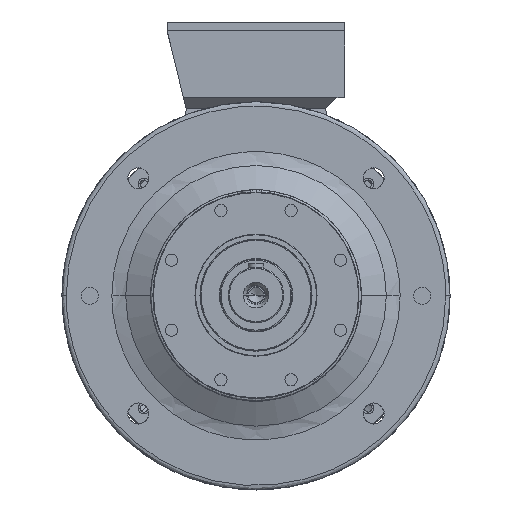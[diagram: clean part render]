
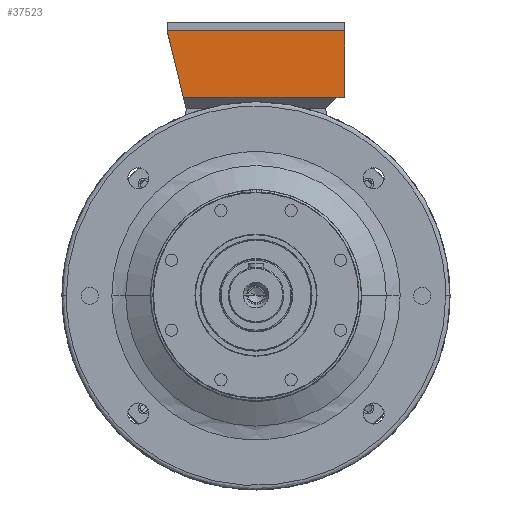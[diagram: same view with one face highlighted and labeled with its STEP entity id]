
A CAD part, top view. The second image highlights one B-rep face of the part: STEP entity #37523.
In plain terms, the highlighted planar face has unit normal (0, 0, 1).
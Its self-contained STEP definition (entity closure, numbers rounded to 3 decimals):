
#9976 = AXIS2_PLACEMENT_3D ( 'NONE', #76532, #76527, #76498 ) ;
#23425 = EDGE_CURVE ( 'NONE', #90498, #35772, #57526, .T. ) ;
#23520 = EDGE_CURVE ( 'NONE', #35772, #79768, #57705, .T. ) ;
#23521 = EDGE_CURVE ( 'NONE', #51856, #79768, #57733, .T. ) ;
#23531 = EDGE_CURVE ( 'NONE', #35771, #90498, #57670, .T. ) ;
#23551 = EDGE_CURVE ( 'NONE', #35771, #51856, #57736, .T. ) ;
#27166 = CARTESIAN_POINT ( 'NONE',  ( -80., 70., 150. ) ) ;
#27366 = CARTESIAN_POINT ( 'NONE',  ( -65.429, 10., 150. ) ) ;
#35771 = VERTEX_POINT ( 'NONE', #76350 ) ;
#35772 = VERTEX_POINT ( 'NONE', #76345 ) ;
#37523 = ADVANCED_FACE ( 'NONE', ( #67301 ), #76511, .F. ) ;
#38647 = CARTESIAN_POINT ( 'NONE',  ( 80., 10., 150. ) ) ;
#51856 = VERTEX_POINT ( 'NONE', #27166 ) ;
#57526 = LINE ( 'NONE', #80535, #57605 ) ;
#57605 = VECTOR ( 'NONE', #80557, 1000. ) ;
#57660 = VECTOR ( 'NONE', #80980, 1000. ) ;
#57664 = VECTOR ( 'NONE', #81133, 1000. ) ;
#57670 = LINE ( 'NONE', #81123, #57720 ) ;
#57705 = LINE ( 'NONE', #80994, #57660 ) ;
#57720 = VECTOR ( 'NONE', #81104, 1000. ) ;
#57733 = LINE ( 'NONE', #80997, #57763 ) ;
#57736 = LINE ( 'NONE', #81177, #57664 ) ;
#57763 = VECTOR ( 'NONE', #80990, 1000. ) ;
#67301 = FACE_OUTER_BOUND ( 'NONE', #97146, .T. ) ;
#76345 = CARTESIAN_POINT ( 'NONE',  ( 73., 10., 150. ) ) ;
#76350 = CARTESIAN_POINT ( 'NONE',  ( 80., 70., 150. ) ) ;
#76498 = DIRECTION ( 'NONE',  ( -1., 0., 0. ) ) ;
#76511 = PLANE ( 'NONE',  #9976 ) ;
#76527 = DIRECTION ( 'NONE',  ( 0., 0., -1. ) ) ;
#76532 = CARTESIAN_POINT ( 'NONE',  ( -80., 70., 150. ) ) ;
#79768 = VERTEX_POINT ( 'NONE', #27366 ) ;
#80535 = CARTESIAN_POINT ( 'NONE',  ( -80., 10., 150. ) ) ;
#80557 = DIRECTION ( 'NONE',  ( -1., 0., 0. ) ) ;
#80980 = DIRECTION ( 'NONE',  ( -1., 0., 0. ) ) ;
#80990 = DIRECTION ( 'NONE',  ( 0.236, -0.972, 0. ) ) ;
#80994 = CARTESIAN_POINT ( 'NONE',  ( -80., 10., 150. ) ) ;
#80997 = CARTESIAN_POINT ( 'NONE',  ( -63., 0., 150. ) ) ;
#81104 = DIRECTION ( 'NONE',  ( 0., -1., 0. ) ) ;
#81123 = CARTESIAN_POINT ( 'NONE',  ( 80., 70., 150. ) ) ;
#81133 = DIRECTION ( 'NONE',  ( -1., 0., 0. ) ) ;
#81177 = CARTESIAN_POINT ( 'NONE',  ( -80., 70., 150. ) ) ;
#84138 = ORIENTED_EDGE ( 'NONE', *, *, #23531, .F. ) ;
#84217 = ORIENTED_EDGE ( 'NONE', *, *, #23520, .F. ) ;
#84226 = ORIENTED_EDGE ( 'NONE', *, *, #23425, .F. ) ;
#84235 = ORIENTED_EDGE ( 'NONE', *, *, #23521, .T. ) ;
#86777 = ORIENTED_EDGE ( 'NONE', *, *, #23551, .T. ) ;
#90498 = VERTEX_POINT ( 'NONE', #38647 ) ;
#97146 = EDGE_LOOP ( 'NONE', ( #84138, #86777, #84235, #84217, #84226 ) ) ;
